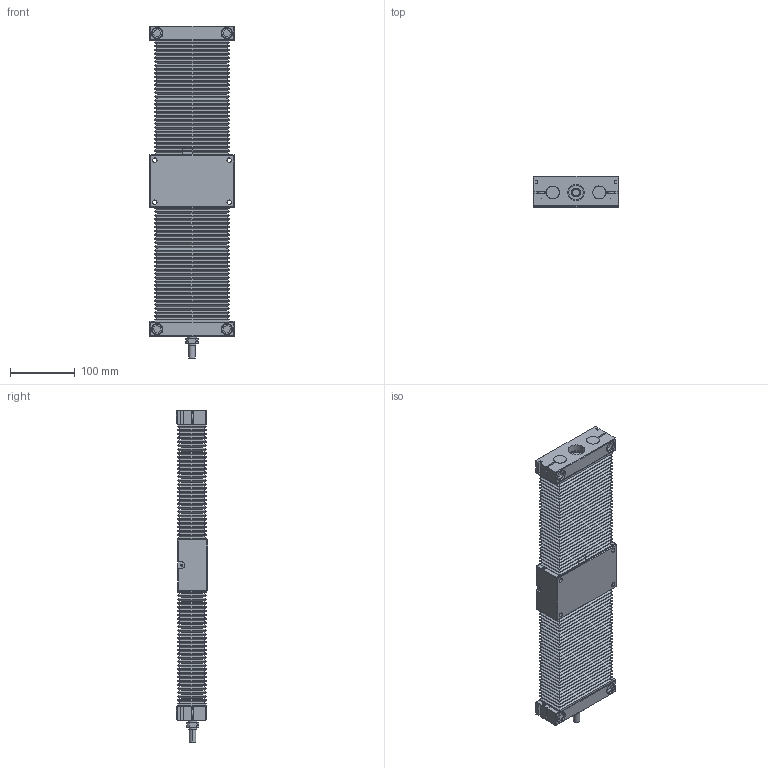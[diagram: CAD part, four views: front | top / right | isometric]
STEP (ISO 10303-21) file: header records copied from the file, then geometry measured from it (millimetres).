
FILE_DESCRIPTION (( 'STEP AP214' ), '1' );
FILE_NAME ('TKC2010B-200H0C-Ä£×é.step', '2025-08-25T08:39:19', ( '' ), ( '' ), 'SwSTEP 2.0', 'SolidWorks 2024', '' );
FILE_SCHEMA (( 'AUTOMOTIVE_DESIGN' ));
Length unit declared in the file: millimetre
Products named in the file (4): TKC20-200-03; TKC2010B-200H0C-模组; TKC20-02; TKC20-200-01
Assembly tree (4 placements, depth 2):
  TKC2010B-200H0C-模组
    TKC20-02
    TKC20-200-01
    TKC20-200-03  x2
Bounding box: 130 x 48 x 513.5 mm (x, y, z)
Volume: 1779640.9 mm3; surface area: 543678.3 mm2
Topology: 14 solids, 14 shells, 1436 faces, 3223 edges, 1860 vertices
Faces by surface type: plane 1017, cylinder 344, cone 36, torus 28, bspline 11
Entity records: 51820 total; most frequent: CARTESIAN_POINT 27766, ORIENTED_EDGE 4838, DIRECTION 4761, EDGE_CURVE 2419, LINE 1641, VECTOR 1641, AXIS2_PLACEMENT_3D 1560, VERTEX_POINT 1464
